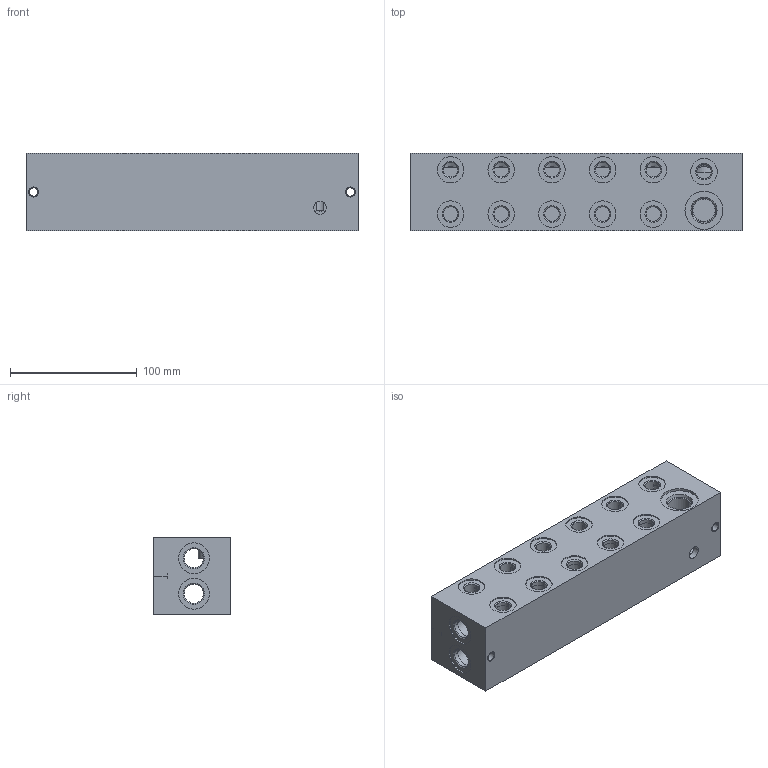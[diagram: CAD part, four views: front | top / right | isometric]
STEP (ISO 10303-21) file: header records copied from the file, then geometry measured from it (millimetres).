
FILE_DESCRIPTION((''),'2;1');
FILE_NAME('760_7050','2015-11-27T',('Ahcz.brigadnik05'),(''),'PRO/ENGINEER BY PARAMETRIC TECHNOLOGY CORPORATION, 2015110','PRO/ENGINEER BY PARAMETRIC TECHNOLOGY CORPORATION, 2015110','');
FILE_SCHEMA(('AUTOMOTIVE_DESIGN { 1 0 10303 214 1 1 1 1 }'));
Length unit declared in the file: millimetre
Products named in the file (1): 760_7050
Bounding box: 262 x 61 x 61 mm (x, y, z)
Volume: 362579.6 mm3; surface area: 147025 mm2
Topology: 1 solids, 44 shells, 397 faces, 1886 edges, 1759 vertices
Faces by surface type: cylinder 263, plane 78, cone 56
Entity records: 20965 total; most frequent: CARTESIAN_POINT 4356, DIRECTION 3211, ORIENTED_EDGE 2042, VECTOR 1163, LINE 1163, EDGE_CURVE 1107, AXIS2_PLACEMENT_3D 1024, TRIMMED_CURVE 774
